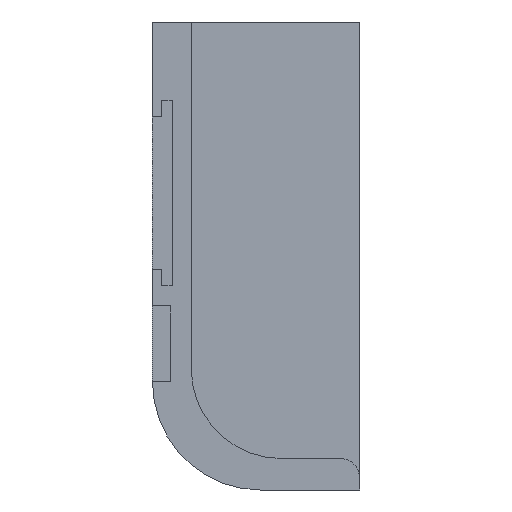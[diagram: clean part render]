
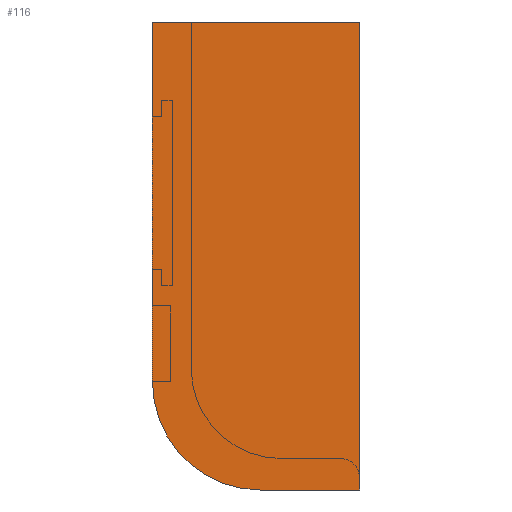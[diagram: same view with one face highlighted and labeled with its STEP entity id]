
A CAD part, left-side view. The second image highlights one B-rep face of the part: STEP entity #116.
In plain terms, the highlighted planar face has unit normal (-1, 0, 0).
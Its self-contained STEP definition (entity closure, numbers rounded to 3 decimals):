
#116 = ADVANCED_FACE( '', ( #249 ), #250, .F. );
#249 = FACE_OUTER_BOUND( '', #407, .T. );
#250 = PLANE( '', #408 );
#407 = EDGE_LOOP( '', ( #560, #561, #562, #563, #564 ) );
#408 = AXIS2_PLACEMENT_3D( '', #565, #566, #567 );
#560 = ORIENTED_EDGE( '', *, *, #1014, .F. );
#561 = ORIENTED_EDGE( '', *, *, #1015, .F. );
#562 = ORIENTED_EDGE( '', *, *, #1016, .F. );
#563 = ORIENTED_EDGE( '', *, *, #1017, .F. );
#564 = ORIENTED_EDGE( '', *, *, #1018, .F. );
#565 = CARTESIAN_POINT( '', ( 0., 11., 12. ) );
#566 = DIRECTION( '', ( 1., 0., 0. ) );
#567 = DIRECTION( '', ( 0., 0., -1. ) );
#1014 = EDGE_CURVE( '', #1200, #1201, #1202, .T. );
#1015 = EDGE_CURVE( '', #1203, #1200, #1204, .T. );
#1016 = EDGE_CURVE( '', #1205, #1203, #1206, .T. );
#1017 = EDGE_CURVE( '', #1207, #1205, #1208, .T. );
#1018 = EDGE_CURVE( '', #1201, #1207, #1209, .T. );
#1200 = VERTEX_POINT( '', #1474 );
#1201 = VERTEX_POINT( '', #1475 );
#1202 = LINE( '', #1476, #1477 );
#1203 = VERTEX_POINT( '', #1478 );
#1204 = LINE( '', #1479, #1480 );
#1205 = VERTEX_POINT( '', #1481 );
#1206 = CIRCLE( '', #1482, 12. );
#1207 = VERTEX_POINT( '', #1483 );
#1208 = LINE( '', #1484, #1485 );
#1209 = LINE( '', #1486, #1487 );
#1474 = CARTESIAN_POINT( '', ( 0., 23., 52. ) );
#1475 = CARTESIAN_POINT( '', ( 0., 0., 52. ) );
#1476 = CARTESIAN_POINT( '', ( 0., 23., 52. ) );
#1477 = VECTOR( '', #1848, 1000. );
#1478 = CARTESIAN_POINT( '', ( 0., 23., 12. ) );
#1479 = CARTESIAN_POINT( '', ( 0., 23., 12. ) );
#1480 = VECTOR( '', #1849, 1000. );
#1481 = CARTESIAN_POINT( '', ( 0., 11., 0. ) );
#1482 = AXIS2_PLACEMENT_3D( '', #1850, #1851, #1852 );
#1483 = CARTESIAN_POINT( '', ( 0., 0., 0. ) );
#1484 = CARTESIAN_POINT( '', ( 0., 0., 0. ) );
#1485 = VECTOR( '', #1853, 1000. );
#1486 = CARTESIAN_POINT( '', ( 0., 0., 52. ) );
#1487 = VECTOR( '', #1854, 1000. );
#1848 = DIRECTION( '', ( 0., -1., 0. ) );
#1849 = DIRECTION( '', ( 0., 0., 1. ) );
#1850 = CARTESIAN_POINT( '', ( 0., 11., 12. ) );
#1851 = DIRECTION( '', ( 1., 0., 0. ) );
#1852 = DIRECTION( '', ( 0., 0., -1. ) );
#1853 = DIRECTION( '', ( 0., 1., 0. ) );
#1854 = DIRECTION( '', ( 0., 0., -1. ) );
